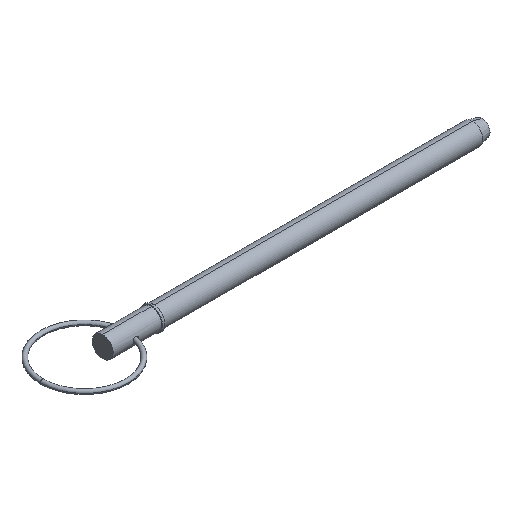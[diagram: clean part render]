
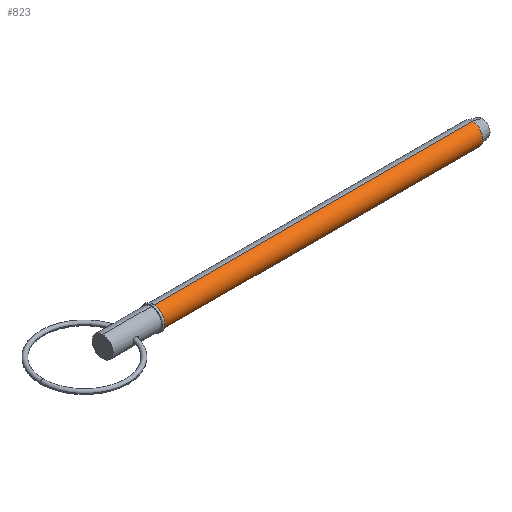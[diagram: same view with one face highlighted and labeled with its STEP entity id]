
A CAD part, isometric view. The second image highlights one B-rep face of the part: STEP entity #823.
In plain terms, the highlighted cylindrical face has radius 3.97 mm (diameter 7.94 mm), a partial arc.
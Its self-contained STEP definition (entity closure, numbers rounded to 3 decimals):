
#36 = DIRECTION ( 'NONE',  ( 1., 0., 0. ) ) ;
#68 = DIRECTION ( 'NONE',  ( 1., 0., 0. ) ) ;
#88 = ORIENTED_EDGE ( 'NONE', *, *, #835, .F. ) ;
#92 = ORIENTED_EDGE ( 'NONE', *, *, #352, .F. ) ;
#119 = DIRECTION ( 'NONE',  ( 0., 0., -1. ) ) ;
#135 = DIRECTION ( 'NONE',  ( 1., 0., 0. ) ) ;
#153 = AXIS2_PLACEMENT_3D ( 'NONE', #265, #36, #339 ) ;
#203 = CIRCLE ( 'NONE', #153, 3.97 ) ;
#207 = AXIS2_PLACEMENT_3D ( 'NONE', #511, #212, #735 ) ;
#212 = DIRECTION ( 'NONE',  ( 1., 0., 0. ) ) ;
#261 = DIRECTION ( 'NONE',  ( 1., 0., 0. ) ) ;
#265 = CARTESIAN_POINT ( 'NONE',  ( 19.05, 0., 0. ) ) ;
#272 = AXIS2_PLACEMENT_3D ( 'NONE', #655, #261, #119 ) ;
#339 = DIRECTION ( 'NONE',  ( 0., 0., -1. ) ) ;
#352 = EDGE_CURVE ( 'NONE', #508, #605, #557, .T. ) ;
#363 = CYLINDRICAL_SURFACE ( 'NONE', #207, 3.97 ) ;
#369 = FACE_OUTER_BOUND ( 'NONE', #478, .T. ) ;
#390 = LINE ( 'NONE', #607, #562 ) ;
#478 = EDGE_LOOP ( 'NONE', ( #88, #574, #807, #92 ) ) ;
#508 = VERTEX_POINT ( 'NONE', #545 ) ;
#511 = CARTESIAN_POINT ( 'NONE',  ( 0., 0., 0. ) ) ;
#516 = CARTESIAN_POINT ( 'NONE',  ( 0., 0., 3.97 ) ) ;
#545 = CARTESIAN_POINT ( 'NONE',  ( 139.176, 0., 3.97 ) ) ;
#557 = CIRCLE ( 'NONE', #272, 3.97 ) ;
#562 = VECTOR ( 'NONE', #68, 1000. ) ;
#574 = ORIENTED_EDGE ( 'NONE', *, *, #679, .T. ) ;
#605 = VERTEX_POINT ( 'NONE', #874 ) ;
#607 = CARTESIAN_POINT ( 'NONE',  ( 0., 0., -3.97 ) ) ;
#624 = VECTOR ( 'NONE', #135, 1000. ) ;
#655 = CARTESIAN_POINT ( 'NONE',  ( 139.176, 0., 0. ) ) ;
#679 = EDGE_CURVE ( 'NONE', #949, #762, #203, .T. ) ;
#681 = CARTESIAN_POINT ( 'NONE',  ( 19.05, 0., 3.97 ) ) ;
#735 = DIRECTION ( 'NONE',  ( 0., 0., -1. ) ) ;
#762 = VERTEX_POINT ( 'NONE', #805 ) ;
#805 = CARTESIAN_POINT ( 'NONE',  ( 19.05, 0., -3.97 ) ) ;
#807 = ORIENTED_EDGE ( 'NONE', *, *, #997, .T. ) ;
#823 = ADVANCED_FACE ( 'NONE', ( #369 ), #363, .T. ) ;
#835 = EDGE_CURVE ( 'NONE', #949, #508, #898, .T. ) ;
#874 = CARTESIAN_POINT ( 'NONE',  ( 139.176, 0., -3.97 ) ) ;
#898 = LINE ( 'NONE', #516, #624 ) ;
#949 = VERTEX_POINT ( 'NONE', #681 ) ;
#997 = EDGE_CURVE ( 'NONE', #762, #605, #390, .T. ) ;
